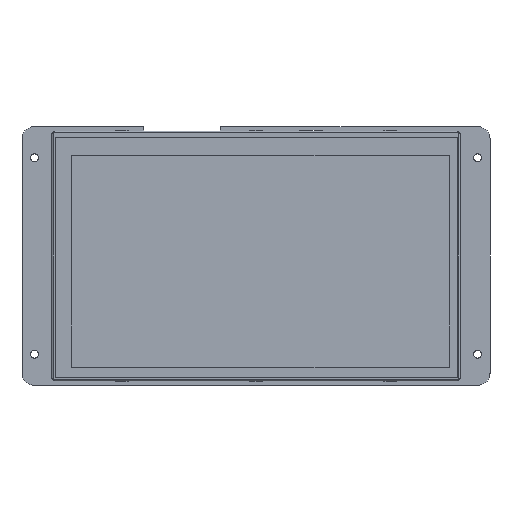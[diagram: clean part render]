
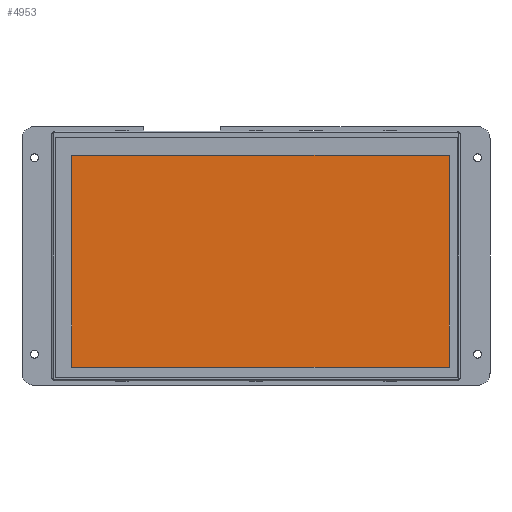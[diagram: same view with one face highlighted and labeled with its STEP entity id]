
A CAD part, front view. The second image highlights one B-rep face of the part: STEP entity #4953.
In plain terms, the highlighted planar face has unit normal (0, -1, 0) as drawn and (0, 1, 0) by its records, which use the part's own axes.
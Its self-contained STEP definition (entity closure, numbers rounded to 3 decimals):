
#131 = EDGE_CURVE ( 'NONE', #8940, #13647, #9133, .T. ) ;
#289 = AXIS2_PLACEMENT_3D ( 'NONE', #8053, #8040, #7928 ) ;
#1645 = VECTOR ( 'NONE', #2747, 1000. ) ;
#1786 = FACE_OUTER_BOUND ( 'NONE', #2841, .T. ) ;
#2097 = CARTESIAN_POINT ( 'NONE',  ( 3.52, 1.4, -93.67 ) ) ;
#2143 = VECTOR ( 'NONE', #11800, 1000. ) ;
#2346 = EDGE_CURVE ( 'NONE', #13496, #8940, #16260, .T. ) ;
#2747 = DIRECTION ( 'NONE',  ( 0., 0., 1. ) ) ;
#2841 = EDGE_LOOP ( 'NONE', ( #4308, #11920, #17676, #8585 ) ) ;
#3011 = CARTESIAN_POINT ( 'NONE',  ( 3.52, 1.4, -93.67 ) ) ;
#4058 = CARTESIAN_POINT ( 'NONE',  ( 3.52, 1.4, -7.49 ) ) ;
#4308 = ORIENTED_EDGE ( 'NONE', *, *, #131, .T. ) ;
#4953 = ADVANCED_FACE ( 'NONE', ( #1786 ), #8415, .F. ) ;
#5254 = VECTOR ( 'NONE', #13733, 1000. ) ;
#5295 = LINE ( 'NONE', #4058, #1645 ) ;
#6251 = CARTESIAN_POINT ( 'NONE',  ( 157.2, 1.4, -7.49 ) ) ;
#7928 = DIRECTION ( 'NONE',  ( 0., 0., -1. ) ) ;
#8040 = DIRECTION ( 'NONE',  ( 0., -1., 0. ) ) ;
#8053 = CARTESIAN_POINT ( 'NONE',  ( 0., 1.4, 0. ) ) ;
#8142 = CARTESIAN_POINT ( 'NONE',  ( 3.52, 1.4, -7.49 ) ) ;
#8415 = PLANE ( 'NONE',  #289 ) ;
#8585 = ORIENTED_EDGE ( 'NONE', *, *, #2346, .T. ) ;
#8940 = VERTEX_POINT ( 'NONE', #6251 ) ;
#9133 = LINE ( 'NONE', #10238, #12322 ) ;
#9323 = VERTEX_POINT ( 'NONE', #3011 ) ;
#10238 = CARTESIAN_POINT ( 'NONE',  ( 157.2, 1.4, -93.67 ) ) ;
#10628 = DIRECTION ( 'NONE',  ( 0., 0., -1. ) ) ;
#11035 = CARTESIAN_POINT ( 'NONE',  ( 157.2, 1.4, -7.49 ) ) ;
#11454 = CARTESIAN_POINT ( 'NONE',  ( 157.2, 1.4, -93.67 ) ) ;
#11800 = DIRECTION ( 'NONE',  ( -1., 0., 0. ) ) ;
#11920 = ORIENTED_EDGE ( 'NONE', *, *, #17674, .T. ) ;
#12322 = VECTOR ( 'NONE', #10628, 1000. ) ;
#13496 = VERTEX_POINT ( 'NONE', #8142 ) ;
#13647 = VERTEX_POINT ( 'NONE', #11454 ) ;
#13733 = DIRECTION ( 'NONE',  ( 1., 0., 0. ) ) ;
#14014 = EDGE_CURVE ( 'NONE', #9323, #13496, #5295, .T. ) ;
#16260 = LINE ( 'NONE', #11035, #5254 ) ;
#16366 = LINE ( 'NONE', #2097, #2143 ) ;
#17674 = EDGE_CURVE ( 'NONE', #13647, #9323, #16366, .T. ) ;
#17676 = ORIENTED_EDGE ( 'NONE', *, *, #14014, .T. ) ;
